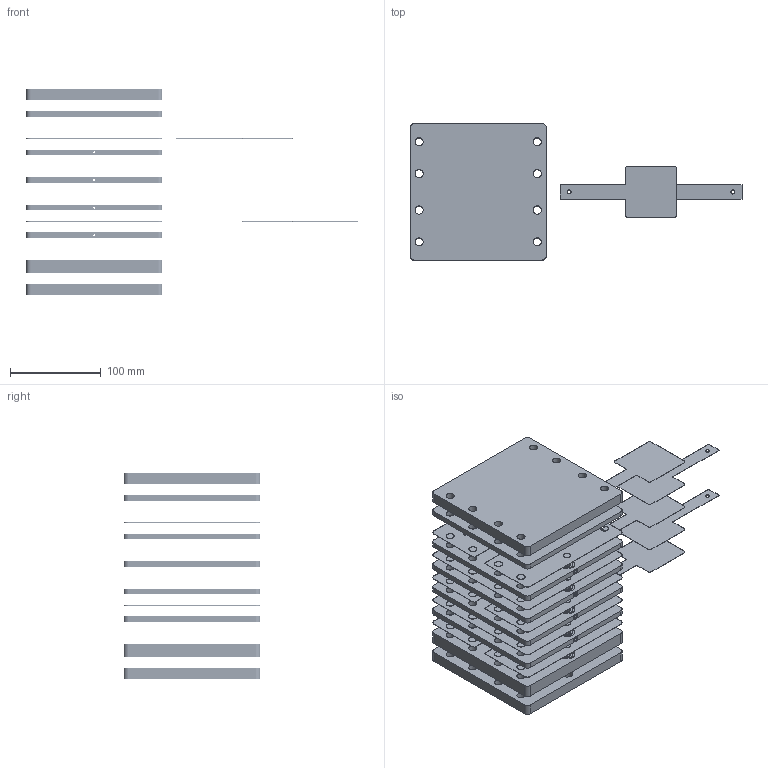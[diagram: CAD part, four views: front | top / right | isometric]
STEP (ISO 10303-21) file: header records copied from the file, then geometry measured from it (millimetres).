
FILE_DESCRIPTION(('FreeCAD Model'),'2;1');
FILE_NAME('Open CASCADE Shape Model','2026-10-30T14:49:01',('Author'),( ''),'Open CASCADE STEP processor 7.8','FreeCAD','Unknown');
FILE_SCHEMA(('AUTOMOTIVE_DESIGN { 1 0 10303 214 1 1 1 1 }'));
Length unit declared in the file: millimetre
Products named in the file (12): 5 片紧凑板框电堆 / Internal parallel manifolds; KP-201 | KP-201 | Front dry endplate with manifold tool access; KP-202 | KP-202 | Front manifold insulator; KS-102-COMP; KP-602 | KP-602 | Cathode precision-film carrier; KP-102 | KP-102 | Cathode electrode; KF-101 | KF-101 | Internal-manifold flow frame KF-101; KS-101-COMP; KP-601 | KP-601 | Anode precision-film carrier; KP-101 | KP-101 | Anode electrode; KP-203 | KP-203 | Rear manifold insulator; KP-204 | KP-204 | Rear dry endplate
Assembly tree (46 placements, depth 2):
  5 片紧凑板框电堆 / Internal parallel manifolds
    KP-201 | KP-201 | Front dry endplate with manifold tool access
    KP-202 | KP-202 | Front manifold insulator
    KS-102-COMP  x20
    KP-602 | KP-602 | Cathode precision-film carrier  x3
    KP-102 | KP-102 | Cathode electrode  x3
    KF-101 | KF-101 | Internal-manifold flow frame KF-101  x4
    KS-101-COMP  x8
    KP-601 | KP-601 | Anode precision-film carrier  x2
    KP-101 | KP-101 | Anode electrode  x2
    KP-203 | KP-203 | Rear manifold insulator
    KP-204 | KP-204 | Rear dry endplate
Bounding box: 365 x 150 x 225.75 mm (x, y, z)
Volume: 1463449.4 mm3; surface area: 635811.5 mm2
Topology: 46 solids, 46 shells, 861 faces, 2163 edges, 1414 vertices
Faces by surface type: cylinder 421, plane 356, revolution 52, extrusion 32
Full cylindrical faces by diameter (mm): 2.2 x18, 3.2 x22, 3.3 x8, 3.4 x2, 4.5 x5, 6 x10, 8 x22, 9 x104, 11.8 x20, 12 x2, 16.2 x20
Entity records: 10999 total; most frequent: DIRECTION 1962, CARTESIAN_POINT 1928, ORIENTED_EDGE 1650, EDGE_CURVE 825, AXIS2_PLACEMENT_3D 757, VERTEX_POINT 547, FACE_BOUND 530, EDGE_LOOP 530
